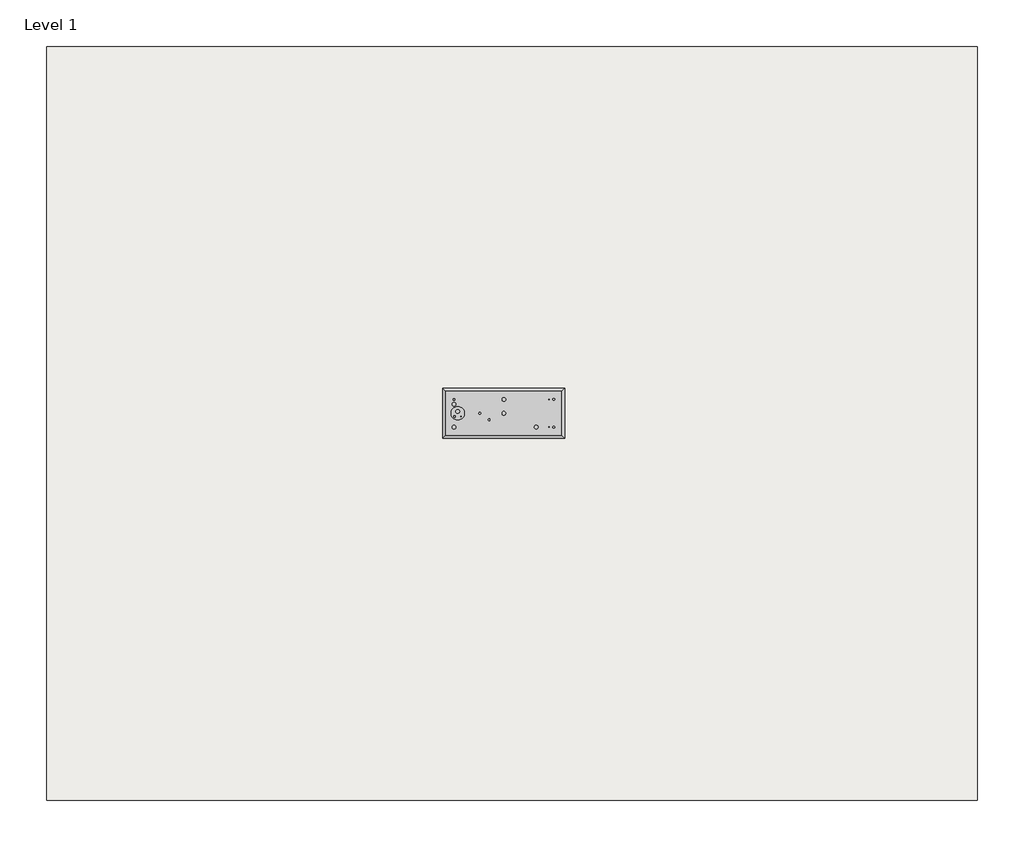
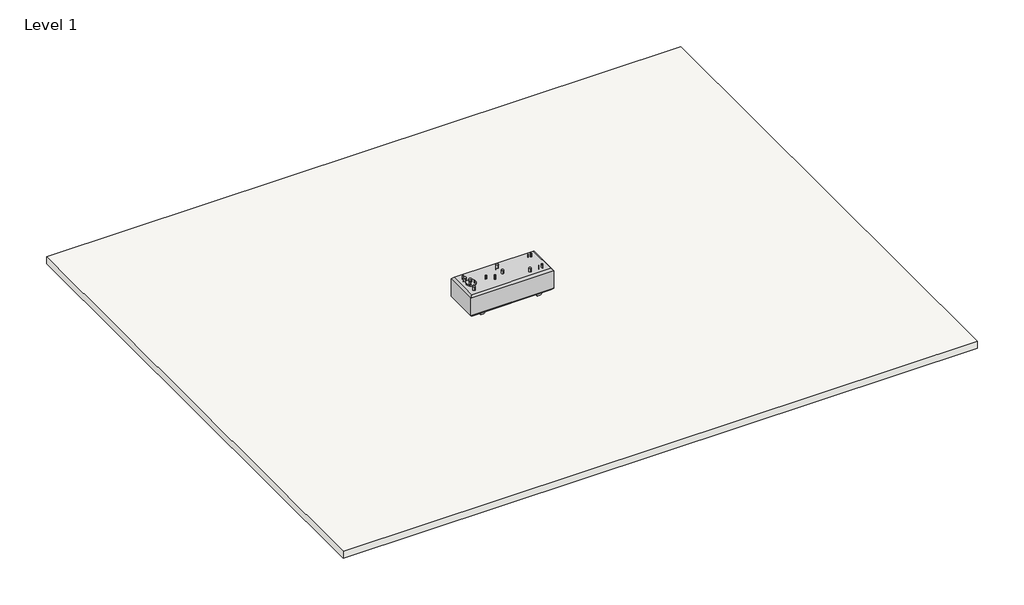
# One storey: 1 proxy, 1 slab.
"""IFC4 building model written with IfcOpenShell, lengths in millimetres."""

from ifc_helpers import new_model, si_unit, frame, origin, place, context, project, spatial, polyline, outline, extrude, transform, mapped, element, save
from components import generic_models_d43cf3dd

model = new_model("IFC4")

# Units and contexts
model_context = context("Model", 3, world=origin())
ifc_project = project(units=[si_unit("LENGTHUNIT", "METRE", prefix="MILLI")], contexts=[model_context])

# Site, building, storey
site = spatial("IfcSite", under=ifc_project)
building = spatial("IfcBuilding", under=site)
storey = spatial("IfcBuildingStorey", under=building, Name="Level 1", Elevation=0.0)

# Proxy
placement = place(None, origin())
generic_models_shape = generic_models_d43cf3dd(model_context)
element("IfcBuildingElementProxy", 1, Name="Convault Tank Family 88153104 : Convault Tank Family 88153104", ObjectType="Convault Tank Family 88153104 : Convault Tank Family 88153104", at=placement, inside=storey, context=model_context, shape_type="MappedRepresentation", body=[
    mapped(generic_models_shape, transform((-578.7357373, 2262.0470368, 0.0), x_axis=(1.0, 0.0, 0.0), y_axis=(0.0, 1.0, 0.0), z_axis=(0.0, 0.0, 1.0))),
])

# Slab
element("IfcSlab", 2, ObjectType="Generic - 12\"", at=placement, inside=storey, context=model_context, shape_type="SweptSolid", body=[
    extrude(outline(polyline([(12446.9560906, 12349.2639914), (12446.9560906, -8377.1360086), (-13156.2439094, -8377.1360086), (-13156.2439094, 12349.2639914), (12446.9560906, 12349.2639914)])), frame((0.0, 0.0, -304.8), z_axis=(0.0, 0.0, 1.0), x_axis=(1.0, 0.0, 0.0)), (0.0, 0.0, 1.0), 304.8),
])

save(model, "model.ifc")
